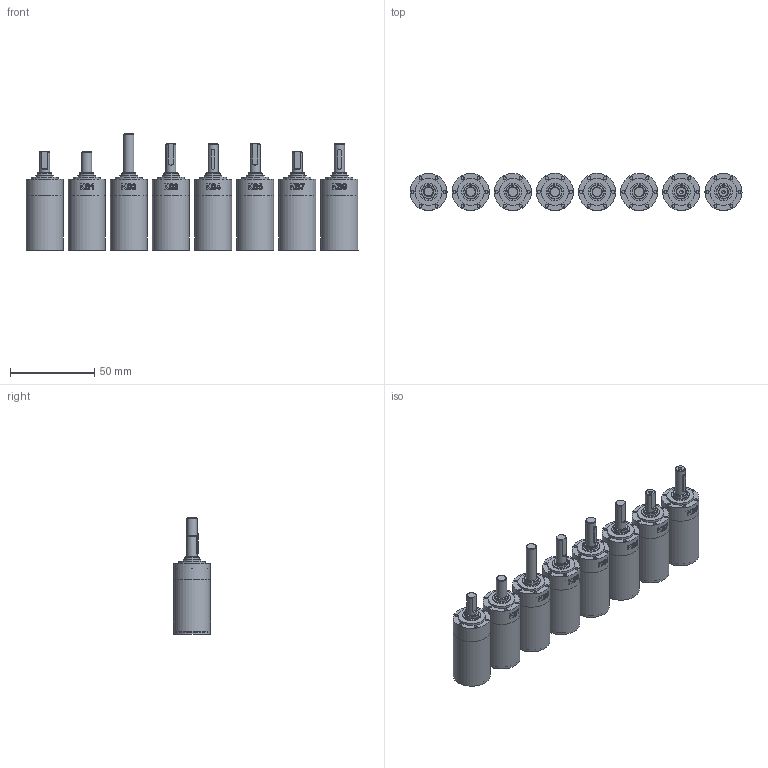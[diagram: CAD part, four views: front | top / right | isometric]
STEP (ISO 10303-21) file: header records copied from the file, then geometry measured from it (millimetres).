
FILE_DESCRIPTION(/* description */ (''),/* implementation_level */ '2;1');
FILE_NAME(/* name */ '22gpt_HT-4stage_standard+KSx.stp',/* time_stamp */ '2025-05-05T14:09:10+02:00',/* author */ ('DR. FRITZ FAULHABER GmbH & Co. KG'),/* organization */ ('DR. FRITZ FAULHABER GmbH & Co. KG'),/* preprocessor_version */ 'ST-DEVELOPER v19.3',/* originating_system */ 'SIEMENS PLM Software NX2212.4000',/* authorisation */ '');
FILE_SCHEMA (('AUTOMOTIVE_DESIGN { 1 0 10303 214 3 1 1 1 }'));
Length unit declared in the file: millimetre
Products named in the file (1): A_objects
Bounding box: 197 x 22 x 69 mm (x, y, z)
Volume: 127614.4 mm3; surface area: 35725.1 mm2
Topology: 8 solids, 8 shells, 518 faces, 1084 edges, 743 vertices
Faces by surface type: plane 245, cylinder 173, bspline 89, cone 11
Full cylindrical faces by diameter (mm): 1.75 x48, 2.05 x2, 6 x8, 8 x8, 8.4 x8, 10.068 x8, 10.5 x8, 12 x8, 16 x8, 20.8 x8, 21 x8, 21.999 x8, 22 x16
Entity records: 24261 total; most frequent: CARTESIAN_POINT 13456, ORIENTED_EDGE 1716, DIRECTION 1686, EDGE_CURVE 858, EDGE_LOOP 832, AXIS2_PLACEMENT_3D 784, VERTEX_POINT 672, FACE_BOUND 561
